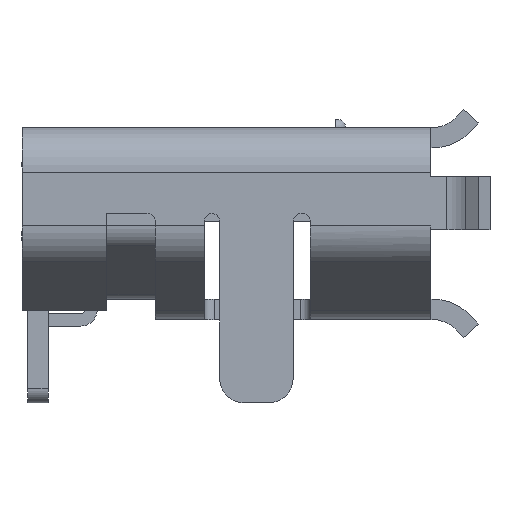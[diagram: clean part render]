
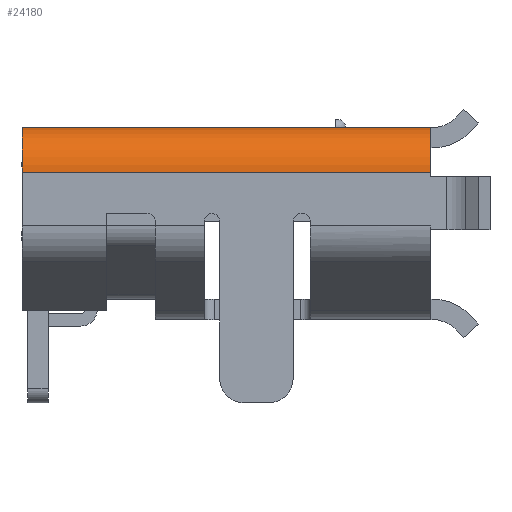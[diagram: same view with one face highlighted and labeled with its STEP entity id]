
A CAD part, left-side view. The second image highlights one B-rep face of the part: STEP entity #24180.
In plain terms, the highlighted cylindrical face has radius 0.55 mm (diameter 1.1 mm), a partial arc.
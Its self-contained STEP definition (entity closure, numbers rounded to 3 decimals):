
#478 = CIRCLE ( 'NONE', #19282, 0.55 ) ;
#614 = VERTEX_POINT ( 'NONE', #24529 ) ;
#3414 = CARTESIAN_POINT ( 'NONE',  ( -3.138, 2.463, 1.85 ) ) ;
#3614 = DIRECTION ( 'NONE',  ( 0., -1., 0. ) ) ;
#4870 = VERTEX_POINT ( 'NONE', #7403 ) ;
#4876 = FACE_OUTER_BOUND ( 'NONE', #12570, .T. ) ;
#5971 = CARTESIAN_POINT ( 'NONE',  ( -3.138, 7.463, 2.4 ) ) ;
#7171 = CARTESIAN_POINT ( 'NONE',  ( -3.138, 2.463, 2.4 ) ) ;
#7403 = CARTESIAN_POINT ( 'NONE',  ( -3.688, 2.463, 1.85 ) ) ;
#9352 = EDGE_CURVE ( 'NONE', #12847, #4870, #478, .T. ) ;
#9974 = DIRECTION ( 'NONE',  ( 0., -1., 0. ) ) ;
#10113 = ORIENTED_EDGE ( 'NONE', *, *, #24958, .T. ) ;
#11760 = DIRECTION ( 'NONE',  ( 0., -1., 0. ) ) ;
#12570 = EDGE_LOOP ( 'NONE', ( #24325, #10113, #23007, #24616 ) ) ;
#12847 = VERTEX_POINT ( 'NONE', #7171 ) ;
#13332 = CYLINDRICAL_SURFACE ( 'NONE', #17732, 0.55 ) ;
#13453 = CARTESIAN_POINT ( 'NONE',  ( -3.138, 7.463, 1.85 ) ) ;
#13770 = AXIS2_PLACEMENT_3D ( 'NONE', #14105, #9974, #18300 ) ;
#14105 = CARTESIAN_POINT ( 'NONE',  ( -3.138, -2.537, 1.85 ) ) ;
#14320 = DIRECTION ( 'NONE',  ( 0., -1., 0. ) ) ;
#15774 = DIRECTION ( 'NONE',  ( 1., 0., 0. ) ) ;
#15976 = VECTOR ( 'NONE', #14320, 1000. ) ;
#17732 = AXIS2_PLACEMENT_3D ( 'NONE', #13453, #17821, #15774 ) ;
#17821 = DIRECTION ( 'NONE',  ( 0., -1., 0. ) ) ;
#18300 = DIRECTION ( 'NONE',  ( -1., 0., 0. ) ) ;
#19282 = AXIS2_PLACEMENT_3D ( 'NONE', #3414, #11760, #20103 ) ;
#20103 = DIRECTION ( 'NONE',  ( 1., 0., 0. ) ) ;
#20170 = CARTESIAN_POINT ( 'NONE',  ( -3.688, 7.463, 1.85 ) ) ;
#20276 = EDGE_CURVE ( 'NONE', #24899, #614, #20763, .T. ) ;
#20763 = CIRCLE ( 'NONE', #13770, 0.55 ) ;
#20871 = EDGE_CURVE ( 'NONE', #12847, #24899, #24667, .T. ) ;
#21938 = CARTESIAN_POINT ( 'NONE',  ( -3.138, -2.537, 2.4 ) ) ;
#23007 = ORIENTED_EDGE ( 'NONE', *, *, #20276, .F. ) ;
#24180 = ADVANCED_FACE ( 'NONE', ( #4876 ), #13332, .T. ) ;
#24325 = ORIENTED_EDGE ( 'NONE', *, *, #9352, .T. ) ;
#24529 = CARTESIAN_POINT ( 'NONE',  ( -3.688, -2.537, 1.85 ) ) ;
#24616 = ORIENTED_EDGE ( 'NONE', *, *, #20871, .F. ) ;
#24667 = LINE ( 'NONE', #5971, #15976 ) ;
#24784 = LINE ( 'NONE', #20170, #26075 ) ;
#24899 = VERTEX_POINT ( 'NONE', #21938 ) ;
#24958 = EDGE_CURVE ( 'NONE', #4870, #614, #24784, .T. ) ;
#26075 = VECTOR ( 'NONE', #3614, 1000. ) ;
